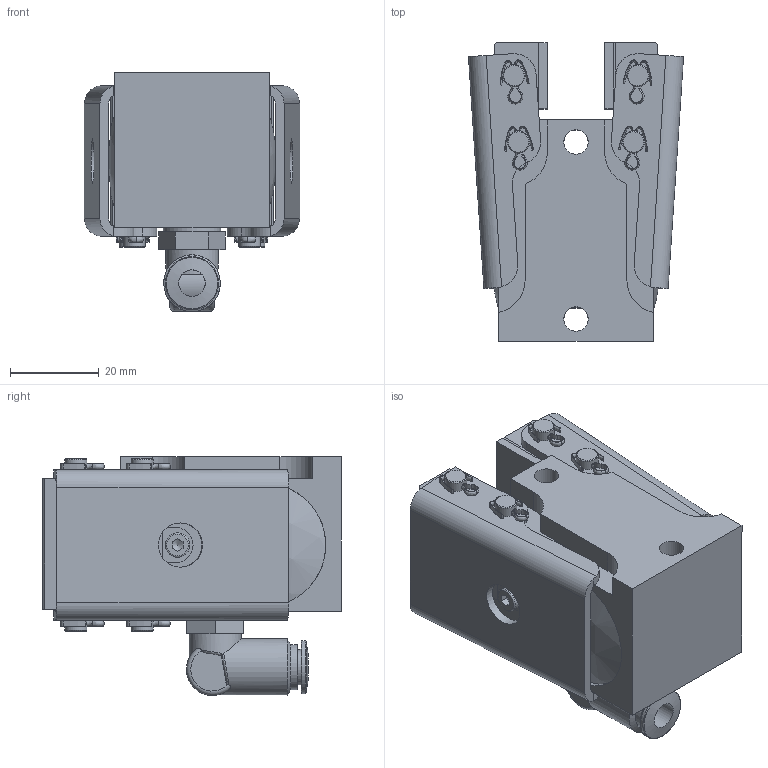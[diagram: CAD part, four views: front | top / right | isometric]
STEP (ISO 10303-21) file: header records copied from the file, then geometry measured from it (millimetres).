
FILE_DESCRIPTION(/* description */ ('','CAx-IF Rec.Pracs.---Representation and Presentation of Product Manufacturing Information (PMI)---4.0---2014-10-13'),/* implementation_level */ '2;1');
FILE_NAME(/* name */ 'X:\INVENTOR\DISEGNI\19_Pinze\STEP x Sito\PNEUM-POSITIVE\19_16_C01_03 PPC C01_12,7.stp',/* time_stamp */ '2018-02-16T16:38:04+01:00',/* author */ ('stefano'),/* organization */ (''),/* preprocessor_version */ 'ST-DEVELOPER v17',/* originating_system */ 'Autodesk Inventor 2018',/* authorisation */ '');
FILE_SCHEMA (('AP242_MANAGED_MODEL_BASED_3D_ENGINEERING_MIM_LF { 1 0 10303 442 1 1 4 }'));
Length unit declared in the file: millimetre
Products named in the file (1): 19_16_C01_03 PPC C01_12,7_Substitute_1
Bounding box: 48.62 x 67.47 x 54 mm (x, y, z)
Volume: 78446.8 mm3; surface area: 30514.2 mm2
Topology: 3 solids, 3 shells, 447 faces, 1313 edges, 890 vertices
Faces by surface type: plane 192, cylinder 139, bspline 85, cone 23, torus 6, sphere 2
Full cylindrical faces by diameter (mm): 1.5 x8, 2.459 x1, 4.2 x1, 5 x10, 5.5 x4, 6 x2, 6.46 x1, 8 x1, 8.566 x1, 10 x2, 10.2 x1, 11.8 x1, 12 x2, 12.8 x1, 13 x1, 16 x1, 18 x1, 28 x2
Entity records: 20930 total; most frequent: CARTESIAN_POINT 8967, ORIENTED_EDGE 2618, DIRECTION 2337, EDGE_CURVE 1309, VERTEX_POINT 890, AXIS2_PLACEMENT_3D 885, LINE 567, VECTOR 567
